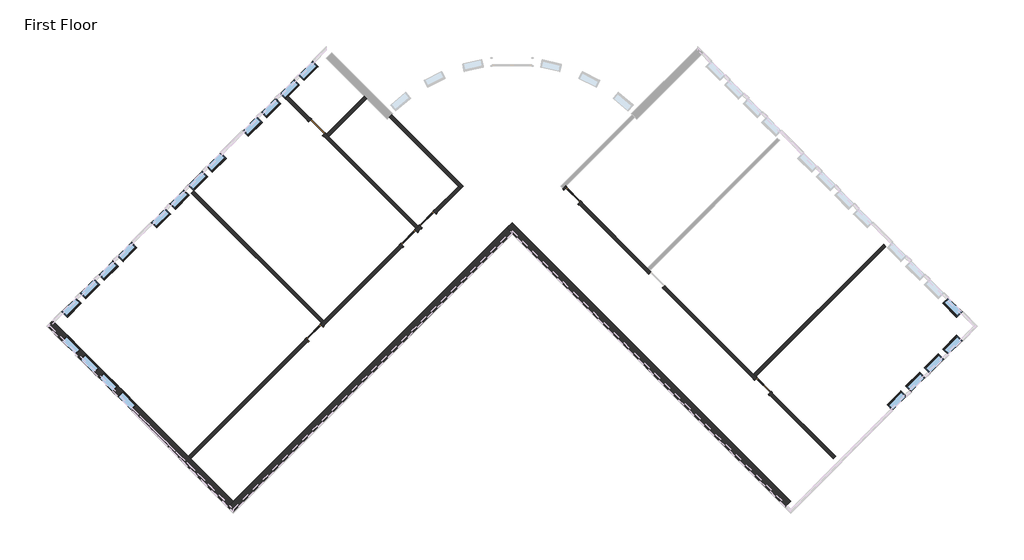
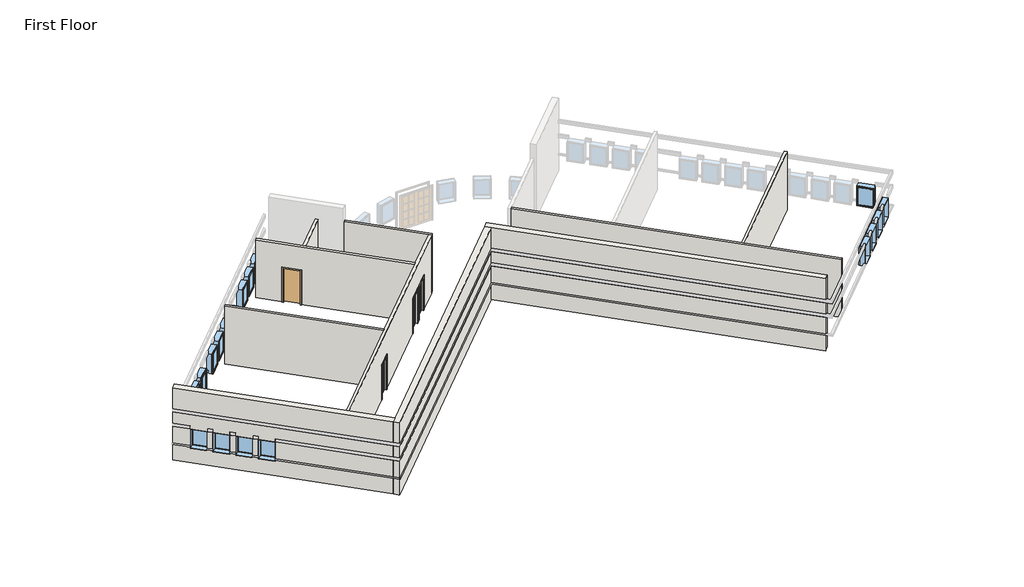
# One storey, part 1 of 3: 21 windows, 10 walls, 6 doors.
"""IFC4 building model written with IfcOpenShell, lengths in millimetres."""

from ifc_helpers import new_model, si_unit, frame, origin, origin_with_axes, place, context, project, spatial, polyline, circle_curve, outline, extrude, faceted_brep, transform, mapped, element, save
from ifc_brep_helpers import plane_surface, cylinder_surface, advanced_brep
from components import door_f9494b7c, door_b81abb0e, door_5f5b55da, window_15c49d37, window_0e2fc6ce

model = new_model("IFC4")

# Units and contexts
model_context = context("Model", 3, world=origin())
ifc_project = project(units=[si_unit("LENGTHUNIT", "METRE", prefix="MILLI")], contexts=[model_context])

# Site, building, storey
site = spatial("IfcSite", under=ifc_project)
building = spatial("IfcBuilding", under=site)
storey = spatial("IfcBuildingStorey", under=building, Name="First Floor", Elevation=0.0)

# Doors
placement = place(None, origin())
door_shape = door_f9494b7c(model_context)
element("IfcDoor", 1, ObjectType="Single-Flush : 36\" x 84\"", at=placement, inside=storey, context=model_context, shape_type="MappedRepresentation", body=[
    mapped(door_shape, transform((-11920.1265343, 7875.9588464, 0.0), x_axis=(0.7071067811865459, -0.7071067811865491, 0.0), y_axis=(0.7071067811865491, 0.7071067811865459, 0.0), z_axis=(0.0, 0.0, 1.0))),
])
door_2_shape = door_b81abb0e(model_context)
element("IfcDoor", 2, ObjectType="Single-Glass 1 : 36\" x 84\"", at=placement, inside=storey, context=model_context, shape_type="MappedRepresentation", body=[
    mapped(door_2_shape, transform((-12027.7718255, -1647.4849877, 0.0), x_axis=(0.7071067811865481, 0.7071067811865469, 0.0), y_axis=(-0.7071067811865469, 0.7071067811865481, 0.0), z_axis=(0.0, 0.0, 1.0))),
])
element("IfcDoor", 3, ObjectType="Single-Glass 1 : 36\" x 84\"", at=placement, inside=storey, context=model_context, shape_type="MappedRepresentation", body=[
    mapped(door_2_shape, transform((-7643.2795567, 2737.0072811, 0.0), x_axis=(0.7071067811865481, 0.7071067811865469, 0.0), y_axis=(-0.7071067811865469, 0.7071067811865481, 0.0), z_axis=(0.0, 0.0, 1.0))),
])
door_3_shape = door_5f5b55da(model_context)
element("IfcDoor", 4, ObjectType="Single-Glass 1 : 36\" x 84\"", at=placement, inside=storey, context=model_context, shape_type="MappedRepresentation", body=[
    mapped(door_3_shape, transform((-6781.1749691, 3599.1118687, 0.0), x_axis=(-0.7071067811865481, -0.7071067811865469, 0.0), y_axis=(0.7071067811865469, -0.7071067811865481, 0.0), z_axis=(0.0, 0.0, 1.0))),
])
element("IfcDoor", 5, ObjectType="Single-Glass 1 : 36\" x 84\"", at=placement, inside=storey, context=model_context, shape_type="MappedRepresentation", body=[
    mapped(door_3_shape, transform((-66.4240191, 4710.6541283, 0.0), x_axis=(-0.7071067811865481, 0.7071067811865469, 0.0), y_axis=(-0.7071067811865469, -0.7071067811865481, 0.0), z_axis=(0.0, 0.0, 1.0))),
])
element("IfcDoor", 6, ObjectType="Single-Glass 1 : 36\" x 84\"", at=placement, inside=storey, context=model_context, shape_type="MappedRepresentation", body=[
    mapped(door_3_shape, transform((8770.3835686, -4126.1534594, 0.0), x_axis=(-0.7071067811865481, 0.7071067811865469, 0.0), y_axis=(-0.7071067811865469, -0.7071067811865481, 0.0), z_axis=(0.0, 0.0, 1.0))),
])

# Walls
element("IfcWall", 7, ObjectType="Exterior - Split Face and CMU on Mtl. Stud", at=placement, inside=storey, context=model_context, shape_type="Brep", body=[
    faceted_brep([(10063.54045, -9480.6311716, 4572.0), (-2868.0283643, 3450.9376427, 4572.0), (-3117.2304717, 3201.7355354, 4572.0), (-2868.0283643, 2952.533428, 4572.0), (9814.3383427, -9729.833279, 4572.0), (10063.54045, -9480.6311716, 0.0), (-2868.0283643, 3450.9376427, 0.0), (-3117.2304717, 3201.7355354, 0.0), (-2868.0283643, 2952.533428, 0.0), (9814.3383427, -9729.833279, 0.0), (9814.3383427, -9729.833279, 1016.0), (-2868.0283643, 2952.533428, 1016.0), (-2933.1352212, 3017.6402849, 1016.0), (-2933.1352212, 3017.6402849, 1085.85), (-2868.0283643, 2952.533428, 1085.85), (9814.3383427, -9729.833279, 1085.85), (9814.3383427, -9729.833279, 2133.6), (-2868.0283643, 2952.533428, 2133.6), (-2933.1352212, 3017.6402849, 2133.6), (-2933.1352212, 3017.6402849, 2336.8), (-2868.0283643, 2952.533428, 2336.8), (9814.3383427, -9729.833279, 2336.8), (9814.3383427, -9729.833279, 3048.0), (-2868.0283643, 2952.533428, 3048.0), (-2933.1352212, 3017.6402849, 3048.0), (-2933.1352212, 3017.6402849, 3251.2), (-2868.0283643, 2952.533428, 3251.2), (9814.3383427, -9729.833279, 3251.2), (9879.4451996, -9664.7264221, 0.0), (-3052.1236148, 3266.8423923, 0.0), (9879.4451996, -9664.7264221, 3251.2), (9879.4451996, -9664.7264221, 3048.0), (9879.4451996, -9664.7264221, 2336.8), (9879.4451996, -9664.7264221, 2133.6), (9879.4451996, -9664.7264221, 1085.85), (9879.4451996, -9664.7264221, 1016.0), (-2868.0283643, 3082.7471418, 1085.85), (-2868.0283643, 3082.7471418, 1016.0), (-2868.0283643, 3082.7471418, 2133.6), (-2868.0283643, 3082.7471418, 2336.8), (-2868.0283643, 3082.7471418, 3048.0), (-2868.0283643, 3082.7471418, 3251.2)], [[[0, 1, 2, 3, 4]], [[5, 6, 1, 0]], [[4, 3, 2, 7, 8, 9, 10, 11, 12, 13, 14, 15, 16, 17, 18, 19, 20, 21, 22, 23, 24, 25, 26, 27]], [[6, 5, 28, 29]], [[5, 0, 4, 27, 30, 31, 22, 21, 32, 33, 16, 15, 34, 35, 10, 9, 28]], [[9, 8, 7, 29, 28]], [[1, 6, 29, 7, 2]], [[13, 36, 34, 15, 14]], [[35, 37, 12, 11, 10]], [[36, 37, 35, 34]], [[37, 36, 13, 12]], [[33, 38, 18, 17, 16]], [[19, 39, 32, 21, 20]], [[39, 38, 33, 32]], [[38, 39, 19, 18]], [[31, 40, 24, 23, 22]], [[25, 41, 30, 27, 26]], [[41, 40, 31, 30]], [[40, 41, 25, 24]]]),
])
element("IfcWall", 8, ObjectType="Exterior - Split Face and CMU on Mtl. Stud", at=placement, inside=storey, context=model_context, shape_type="Brep", body=[
    faceted_brep([(-3117.2304717, 3201.7355354, 4572.0), (-15799.5971786, -9480.6311716, 4572.0), (-16048.799286, -9729.833279, 4572.0), (-15799.5971786, -9979.0353863, 4572.0), (-2868.0283643, 2952.533428, 4572.0), (-3117.2304717, 3201.7355354, 0.0), (-15799.5971786, -9480.6311716, 0.0), (-16048.799286, -9729.833279, 0.0), (-16048.799286, -9729.833279, 1016.0), (-15983.6924291, -9664.7264221, 1016.0), (-15983.6924291, -9664.7264221, 1085.85), (-16048.799286, -9729.833279, 1085.85), (-16048.799286, -9729.833279, 2133.6), (-15983.6924291, -9664.7264221, 2133.6), (-15983.6924291, -9664.7264221, 2336.8), (-16048.799286, -9729.833279, 2336.8), (-16048.799286, -9729.833279, 3048.0), (-15983.6924291, -9664.7264221, 3048.0), (-15983.6924291, -9664.7264221, 3251.2), (-16048.799286, -9729.833279, 3251.2), (-15799.5971786, -9979.0353863, 3251.2), (-2868.0283643, 2952.533428, 3251.2), (-15799.5971786, -9979.0353863, 0.0), (-2868.0283643, 2952.533428, 0.0), (-2868.0283643, 2952.533428, 1016.0), (-15799.5971786, -9979.0353863, 1016.0), (-15799.5971786, -9979.0353863, 1085.85), (-2868.0283643, 2952.533428, 1085.85), (-2868.0283643, 2952.533428, 2133.6), (-15799.5971786, -9979.0353863, 2133.6), (-15799.5971786, -9979.0353863, 2336.8), (-2868.0283643, 2952.533428, 2336.8), (-2868.0283643, 2952.533428, 3048.0), (-15799.5971786, -9979.0353863, 3048.0), (-2933.1352212, 3017.6402849, 0.0), (-15864.7040355, -9913.9285294, 0.0), (-2933.1352212, 3017.6402849, 3251.2), (-2933.1352212, 3017.6402849, 3048.0), (-2933.1352212, 3017.6402849, 2336.8), (-2933.1352212, 3017.6402849, 2133.6), (-2933.1352212, 3017.6402849, 1085.85), (-2933.1352212, 3017.6402849, 1016.0), (-15799.5971786, -9848.8216726, 1085.85), (-15799.5971786, -9848.8216726, 1016.0), (-15799.5971786, -9848.8216726, 2133.6), (-15799.5971786, -9848.8216726, 2336.8), (-15799.5971786, -9848.8216726, 3048.0), (-15799.5971786, -9848.8216726, 3251.2)], [[[0, 1, 2, 3, 4]], [[5, 6, 7, 8, 9, 10, 11, 12, 13, 14, 15, 16, 17, 18, 19, 2, 1, 0]], [[4, 3, 20, 21]], [[22, 23, 24, 25]], [[26, 27, 28, 29]], [[30, 31, 32, 33]], [[7, 6, 5, 34, 35]], [[5, 0, 4, 21, 36, 37, 32, 31, 38, 39, 28, 27, 40, 41, 24, 23, 34]], [[23, 22, 35, 34]], [[3, 2, 19, 20]], [[7, 35, 22, 25, 8]], [[11, 26, 29, 12]], [[15, 30, 33, 16]], [[10, 42, 40, 27, 26, 11]], [[41, 43, 9, 8, 25, 24]], [[42, 43, 41, 40]], [[43, 42, 10, 9]], [[39, 44, 13, 12, 29, 28]], [[14, 45, 38, 31, 30, 15]], [[45, 44, 39, 38]], [[44, 45, 14, 13]], [[37, 46, 17, 16, 33, 32]], [[18, 47, 36, 21, 20, 19]], [[47, 46, 37, 36]], [[46, 47, 18, 17]]]),
])
element("IfcWall", 9, ObjectType="Exterior - Split Face and CMU on Mtl. Stud", at=placement, inside=storey, context=model_context, shape_type="Brep", body=[
    faceted_brep([(-15799.5971786, -9480.6311716, 4572.0), (-23922.2388402, -1357.9895101, 4572.0), (-24171.4409475, -1108.7874027, 4572.0), (-24420.6430549, -1357.9895101, 4572.0), (-16048.799286, -9729.833279, 4572.0), (-15799.5971786, -9480.6311716, 0.0), (-17775.2535253, -7504.974825, 0.0), (-17885.2616628, -7394.9666875, 0.0), (-23922.2388402, -1357.9895101, 0.0), (-24171.4409475, -1108.7874027, 0.0), (-24171.4409475, -1108.7874027, 1016.0), (-24106.3340906, -1173.8942596, 1016.0), (-24106.3340906, -1173.8942596, 1085.85), (-24171.4409475, -1108.7874027, 1085.85), (-24171.4409475, -1108.7874027, 2133.6), (-24106.3340906, -1173.8942596, 2133.6), (-24106.3340906, -1173.8942596, 2336.8), (-24171.4409475, -1108.7874027, 2336.8), (-24171.4409475, -1108.7874027, 3048.0), (-24106.3340906, -1173.8942596, 3048.0), (-24106.3340906, -1173.8942596, 3251.2), (-24171.4409475, -1108.7874027, 3251.2), (-20921.7107637, -4358.5175865, 2133.6), (-20921.7107637, -4358.5175865, 914.4), (-20275.132323, -5005.0960273, 914.4), (-20275.132323, -5005.0960273, 2133.6), (-21783.8153513, -3496.4129989, 2133.6), (-21783.8153513, -3496.4129989, 914.4), (-21137.2369106, -4142.9914396, 914.4), (-21137.2369106, -4142.9914396, 2133.6), (-22645.9199389, -2634.3084113, 2133.6), (-22645.9199389, -2634.3084113, 914.4), (-21999.3414982, -3280.886852, 914.4), (-21999.3414982, -3280.886852, 2133.6), (-23508.0245266, -1772.2038237, 2133.6), (-23508.0245266, -1772.2038237, 914.4), (-22861.4460859, -2418.7822644, 914.4), (-22861.4460859, -2418.7822644, 2133.6), (-24420.6430549, -1357.9895101, 3251.2), (-16048.799286, -9729.833279, 3251.2), (-24420.6430549, -1357.9895101, 0.0), (-16048.799286, -9729.833279, 0.0), (-16048.799286, -9729.833279, 1016.0), (-20524.3344303, -5254.2981346, 1016.0), (-20524.3344303, -5254.2981346, 914.4), (-21170.9128711, -4607.7196939, 914.4), (-21170.9128711, -4607.7196939, 1016.0), (-21386.439018, -4392.193547, 1016.0), (-21386.439018, -4392.193547, 914.4), (-22033.0174587, -3745.6151063, 914.4), (-22033.0174587, -3745.6151063, 1016.0), (-22248.5436056, -3530.0889594, 1016.0), (-22248.5436056, -3530.0889594, 914.4), (-22895.1220463, -2883.5105187, 914.4), (-22895.1220463, -2883.5105187, 1016.0), (-23110.6481932, -2667.9843718, 1016.0), (-23110.6481932, -2667.9843718, 914.4), (-23757.2266339, -2021.405931, 914.4), (-23757.2266339, -2021.405931, 1016.0), (-24420.6430549, -1357.9895101, 1016.0), (-21170.9128711, -4607.7196939, 2133.6), (-20524.3344303, -5254.2981346, 2133.6), (-20524.3344303, -5254.2981346, 2336.8), (-16048.799286, -9729.833279, 2336.8), (-16048.799286, -9729.833279, 3048.0), (-24420.6430549, -1357.9895101, 3048.0), (-24420.6430549, -1357.9895101, 2336.8), (-23757.2266339, -2021.405931, 2336.8), (-23757.2266339, -2021.405931, 2133.6), (-23110.6481932, -2667.9843718, 2133.6), (-23110.6481932, -2667.9843718, 2336.8), (-22895.1220463, -2883.5105187, 2336.8), (-22895.1220463, -2883.5105187, 2133.6), (-22248.5436056, -3530.0889594, 2133.6), (-22248.5436056, -3530.0889594, 2336.8), (-22033.0174587, -3745.6151063, 2336.8), (-22033.0174587, -3745.6151063, 2133.6), (-21386.439018, -4392.193547, 2133.6), (-21386.439018, -4392.193547, 2336.8), (-21170.9128711, -4607.7196939, 2336.8), (-20524.3344303, -5254.2981346, 1085.85), (-16048.799286, -9729.833279, 1085.85), (-16048.799286, -9729.833279, 2133.6), (-21170.9128711, -4607.7196939, 1085.85), (-21386.439018, -4392.193547, 1085.85), (-22033.0174587, -3745.6151063, 1085.85), (-22248.5436056, -3530.0889594, 1085.85), (-22895.1220463, -2883.5105187, 1085.85), (-23110.6481932, -2667.9843718, 1085.85), (-23757.2266339, -2021.405931, 1085.85), (-24420.6430549, -1357.9895101, 2133.6), (-24420.6430549, -1357.9895101, 1085.85), (-15983.6924291, -9664.7264221, 0.0), (-24355.536198, -1292.8826532, 0.0), (-15983.6924291, -9664.7264221, 3251.2), (-15983.6924291, -9664.7264221, 3048.0), (-15983.6924291, -9664.7264221, 2336.8), (-15983.6924291, -9664.7264221, 2133.6), (-15983.6924291, -9664.7264221, 1085.85), (-15983.6924291, -9664.7264221, 1016.0), (-21105.8060142, -4542.612837, 2133.6), (-21105.8060142, -4542.612837, 1085.85), (-21105.8060142, -4542.612837, 1016.0), (-20459.2275735, -5189.1912777, 1016.0), (-20459.2275735, -5189.1912777, 1085.85), (-20459.2275735, -5189.1912777, 2133.6), (-21967.9106018, -3680.5082494, 2133.6), (-21967.9106018, -3680.5082494, 1085.85), (-21967.9106018, -3680.5082494, 1016.0), (-21321.3321611, -4327.0866901, 1016.0), (-21321.3321611, -4327.0866901, 1085.85), (-21321.3321611, -4327.0866901, 2133.6), (-22830.0151894, -2818.4036618, 2133.6), (-22830.0151894, -2818.4036618, 1085.85), (-22830.0151894, -2818.4036618, 1016.0), (-22183.4367487, -3464.9821025, 1016.0), (-22183.4367487, -3464.9821025, 1085.85), (-22183.4367487, -3464.9821025, 2133.6), (-23692.119777, -1956.2990742, 2133.6), (-23692.119777, -1956.2990742, 1085.85), (-23692.119777, -1956.2990742, 1016.0), (-23045.5413363, -2602.8775149, 1016.0), (-23045.5413363, -2602.8775149, 1085.85), (-23045.5413363, -2602.8775149, 2133.6), (-24290.4293411, -1357.9895101, 1085.85), (-24290.4293411, -1357.9895101, 1016.0), (-20459.2275735, -5189.1912777, 2133.6), (-20459.2275735, -5189.1912777, 2336.8), (-21105.8060142, -4542.612837, 2133.6), (-21105.8060142, -4542.612837, 2336.8), (-21321.3321611, -4327.0866901, 2336.8), (-21321.3321611, -4327.0866901, 2133.6), (-21967.9106018, -3680.5082494, 2133.6), (-21967.9106018, -3680.5082494, 2336.8), (-22183.4367487, -3464.9821025, 2336.8), (-22183.4367487, -3464.9821025, 2133.6), (-22830.0151894, -2818.4036618, 2133.6), (-22830.0151894, -2818.4036618, 2336.8), (-23045.5413363, -2602.8775149, 2336.8), (-23045.5413363, -2602.8775149, 2133.6), (-23692.119777, -1956.2990742, 2133.6), (-23692.119777, -1956.2990742, 2336.8), (-24290.4293411, -1357.9895101, 2133.6), (-24290.4293411, -1357.9895101, 2336.8), (-24290.4293411, -1357.9895101, 3048.0), (-24290.4293411, -1357.9895101, 3251.2)], [[[0, 1, 2, 3, 4]], [[5, 6, 7, 8, 9, 10, 11, 12, 13, 14, 15, 16, 17, 18, 19, 20, 21, 2, 1, 0], [22, 23, 24, 25], [26, 27, 28, 29], [30, 31, 32, 33], [34, 35, 36, 37]], [[4, 3, 38, 39]], [[40, 41, 42, 43, 44, 45, 46, 47, 48, 49, 50, 51, 52, 53, 54, 55, 56, 57, 58, 59]], [[60, 61, 62, 63, 64, 65, 66, 67, 68, 69, 70, 71, 72, 73, 74, 75, 76, 77, 78, 79]], [[61, 80, 81, 82]], [[83, 60, 77, 84]], [[85, 76, 73, 86]], [[87, 72, 69, 88]], [[89, 68, 90, 91]], [[9, 8, 7, 6, 5, 92, 93]], [[5, 0, 4, 39, 94, 95, 64, 63, 96, 97, 82, 81, 98, 99, 42, 41, 92]], [[41, 40, 93, 92]], [[3, 2, 21, 38]], [[9, 93, 40, 59, 10]], [[13, 91, 90, 14]], [[17, 66, 65, 18]], [[23, 22, 100, 60, 83, 101, 102, 46, 45]], [[24, 23, 45, 44]], [[25, 24, 44, 43, 103, 104, 80, 61, 105]], [[22, 25, 105, 61, 60, 100]], [[27, 26, 106, 76, 85, 107, 108, 50, 49]], [[28, 27, 49, 48]], [[29, 28, 48, 47, 109, 110, 84, 77, 111]], [[26, 29, 111, 77, 76, 106]], [[31, 30, 112, 72, 87, 113, 114, 54, 53]], [[32, 31, 53, 52]], [[33, 32, 52, 51, 115, 116, 86, 73, 117]], [[30, 33, 117, 73, 72, 112]], [[35, 34, 118, 68, 89, 119, 120, 58, 57]], [[36, 35, 57, 56]], [[37, 36, 56, 55, 121, 122, 88, 69, 123]], [[34, 37, 123, 69, 68, 118]], [[104, 98, 81, 80]], [[99, 103, 43, 42]], [[98, 104, 103, 99]], [[110, 101, 83, 84]], [[102, 109, 47, 46]], [[101, 110, 109, 102]], [[116, 107, 85, 86]], [[108, 115, 51, 50]], [[107, 116, 115, 108]], [[122, 113, 87, 88]], [[114, 121, 55, 54]], [[113, 122, 121, 114]], [[124, 119, 89, 91, 13, 12]], [[120, 125, 11, 10, 59, 58]], [[119, 124, 125, 120]], [[125, 124, 12, 11]], [[126, 61, 82, 97]], [[62, 127, 96, 63]], [[61, 126, 127, 62]], [[127, 126, 97, 96]], [[128, 60, 79, 129]], [[130, 78, 77, 131]], [[60, 128, 131, 77]], [[128, 129, 130, 131]], [[129, 79, 78, 130]], [[132, 76, 75, 133]], [[134, 74, 73, 135]], [[76, 132, 135, 73]], [[132, 133, 134, 135]], [[133, 75, 74, 134]], [[136, 72, 71, 137]], [[138, 70, 69, 139]], [[72, 136, 139, 69]], [[136, 137, 138, 139]], [[137, 71, 70, 138]], [[140, 68, 67, 141]], [[68, 140, 142, 15, 14, 90]], [[140, 141, 143, 142]], [[141, 67, 66, 17, 16, 143]], [[142, 143, 16, 15]], [[95, 144, 19, 18, 65, 64]], [[20, 145, 94, 39, 38, 21]], [[145, 144, 95, 94]], [[144, 145, 20, 19]]]),
])
element("IfcWall", 10, ObjectType="Interior - 6 1/8\" Partition (2-hr)", at=placement, inside=storey, context=model_context, shape_type="Brep", body=[
    faceted_brep([(-7374.9944051, 3115.3005702, 0.0), (-7322.2354004, 3168.0595749, 0.0), (-7212.2272629, 3278.0677124, 0.0), (-7159.4682582, 3330.8267171, 0.0), (-7049.4601207, 3220.8185796, 0.0), (-7264.9862676, 3005.2924327, 0.0), (-12296.0569771, -2025.7782768, 0.0), (-17775.2535253, -7504.974825, 0.0), (-17885.2616628, -7394.9666875, 0.0), (-12406.0651146, -1915.7701393, 0.0), (-7911.5647083, 2358.713992, 0.0), (-11649.4785364, -1379.1998361, 0.0), (-11759.4866739, -1269.1916986, 0.0), (-11706.7276692, -1216.4326939, 0.0), (-11596.7195317, -1106.4245564, 0.0), (-8021.5728458, 2468.7221295, 0.0), (-6512.8898174, 3977.4051578, 0.0), (-5348.5885532, 5141.7064221, 0.0), (-5238.5804157, 5031.6982846, 0.0), (-6402.88168, 3867.3970204, 0.0), (-17775.2535253, -7504.974825, 3657.6), (-5238.5804157, 5031.6982846, 3657.6), (-5348.5885532, 5141.7064221, 3657.6), (-7212.2272629, 3278.0677124, 3657.6), (-7322.2354004, 3168.0595749, 3657.6), (-11596.7195317, -1106.4245564, 3657.6), (-11706.7276692, -1216.4326939, 3657.6), (-17885.2616628, -7394.9666875, 3657.6), (-7049.4601207, 3220.8185796, 2133.6), (-6402.88168, 3867.3970204, 2133.6), (-12296.0569771, -2025.7782768, 2133.6), (-11649.4785364, -1379.1998361, 2133.6), (-7911.5647083, 2358.713992, 2133.6), (-7264.9862676, 3005.2924327, 2133.6), (-7159.4682582, 3330.8267171, 2133.6), (-7374.9944051, 3115.3005702, 2133.6), (-8021.5728458, 2468.7221295, 2133.6), (-11759.4866739, -1269.1916986, 2133.6), (-12406.0651146, -1915.7701393, 2133.6), (-6512.8898174, 3977.4051578, 2133.6)], [[[0, 1, 2, 3, 4, 5]], [[6, 7, 8, 9]], [[10, 11, 12, 13, 14, 15]], [[16, 17, 18, 19]], [[20, 21, 22, 23, 24, 25, 26, 27]], [[5, 4, 28, 29, 19, 18, 21, 20, 7, 6, 30, 31, 11, 10, 32, 33]], [[34, 3, 2, 1, 0, 35, 36, 15, 14, 13, 12, 37, 38, 9, 8, 27, 26, 25, 24, 23, 22, 17, 16, 39]], [[7, 20, 27, 8]], [[21, 18, 17, 22]], [[37, 12, 11, 31]], [[38, 37, 31, 30]], [[9, 38, 30, 6]], [[35, 0, 5, 33]], [[36, 35, 33, 32]], [[15, 36, 32, 10]], [[28, 4, 3, 34]], [[29, 28, 34, 39]], [[19, 29, 39, 16]]]),
])
element("IfcWall", 11, ObjectType="Interior - 6 1/8\" Partition (2-hr)", at=placement, inside=storey, context=model_context, shape_type="Brep", body=[
    faceted_brep([(-7322.2354004, 3168.0595749, 0.0), (-11651.8413827, 7497.6655573, 0.0), (-11541.8332452, 7607.6736948, 0.0), (-11489.0742405, 7554.9146901, 0.0), (-11379.066103, 7444.9065526, 0.0), (-7212.2272629, 3278.0677124, 0.0), (-12298.4198234, 8144.243998, 0.0), (-13359.2125777, 9205.0367523, 0.0), (-13249.2044403, 9315.0448898, 0.0), (-12188.411686, 8254.2521355, 0.0), (-7212.2272629, 3278.0677124, 3657.6), (-11379.066103, 7444.9065526, 3657.6), (-11489.0742405, 7554.9146901, 3657.6), (-13249.2044403, 9315.0448898, 3657.6), (-13359.2125777, 9205.0367523, 3657.6), (-7322.2354004, 3168.0595749, 3657.6), (-11541.8332452, 7607.6736948, 2133.6), (-12188.411686, 8254.2521355, 2133.6), (-11651.8413827, 7497.6655573, 2133.6), (-12298.4198234, 8144.243998, 2133.6)], [[[0, 1, 2, 3, 4, 5]], [[6, 7, 8, 9]], [[10, 11, 12, 13, 14, 15]], [[5, 4, 3, 2, 16, 17, 9, 8, 13, 12, 11, 10]], [[18, 1, 0, 15, 14, 7, 6, 19]], [[13, 8, 7, 14]], [[5, 10, 15, 0]], [[16, 2, 1, 18]], [[17, 16, 18, 19]], [[9, 17, 19, 6]]]),
])
element("IfcWall", 12, ObjectType="Interior - 6 1/8\" Partition (2-hr)", at=placement, inside=storey, context=model_context, shape_type="AdvancedBrep", body=[
    advanced_brep(
    [(-5128.5722782, 5141.7064221, 0.0), (-8449.0111375, 8462.1452813, 0.0), (-8449.0111375, 8462.1452813, 3657.6), (-5128.5722782, 5141.7064221, 3657.6), (-5238.5804157, 5031.6982846, 0.0), (-5238.5804157, 5031.6982846, 3657.6), (-5348.5885532, 5141.7064221, 3657.6), (-8557.7157352, 8350.8336041, 3657.6), (-8557.7157352, 8350.8336041, 0.0), (-5348.5885532, 5141.7064221, 0.0)],
    [
        (0, 1),
        (1, 2),
        (2, 3),
        (3, 0),
        (4, 5),
        (5, 6),
        (6, 7),
        (7, 8),
        (8, 9),
        (9, 4),
        (0, 4),
        (8, 1, circle_curve(frame((-2868.0283643, 2903.1420194, 0.0), z_axis=(0.0, 0.0, -1.0), x_axis=(1.0, 0.0, 0.0)), 7877.175)),
        (2, 7, circle_curve(frame((-2868.0283643, 2903.1420194, 3657.6), z_axis=(0.0, 0.0, 1.0), x_axis=(1.0, 0.0, 0.0)), 7877.175)),
        (5, 3),
    ],
    [
        plane_surface(frame((-5183.576347, 5196.7104908, 0.0), z_axis=(0.7071067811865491, 0.7071067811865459, 0.0), x_axis=(-0.7071067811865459, 0.7071067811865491, 0.0))),
        plane_surface(frame((-5293.5844845, 5086.7023533, 0.0), z_axis=(-0.7071067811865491, -0.7071067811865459, 0.0), x_axis=(0.7071067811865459, -0.7071067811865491, 0.0))),
        plane_surface(frame((-5183.576347, 5196.7104908, 0.0), z_axis=(0.0, 0.0, -1.0), x_axis=(-0.707106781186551, -0.7071067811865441, 0.0))),
        plane_surface(frame((-8573.2406241, 8586.374768, 3657.6), z_axis=(0.0, 0.0, 1.0), x_axis=(-0.707106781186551, -0.7071067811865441, 0.0))),
        plane_surface(frame((-17899.854579, -7629.5758786, 0.0), z_axis=(0.7071067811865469, -0.7071067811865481, 0.0), x_axis=(0.7071067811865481, 0.7071067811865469, 0.0))),
        cylinder_surface(frame((-2868.0283643, 2903.1420194, 0.0), z_axis=(0.0, 0.0, -1.0), x_axis=(1.0, 0.0, 0.0)), 7877.175),
    ],
    [
        (0, [[1, 2, 3, 4]]),
        (1, [[5, 6, 7, 8, 9, 10]]),
        (2, [[-1, 11, -10, -9, 12]]),
        (3, [[-3, 13, -7, -6, 14]]),
        (4, [[-4, -14, -5, -11]]),
        (5, [[-2, -12, -8, -13]]),
    ],
),
])
element("IfcWall", 13, ObjectType="Interior - 6 1/8\" Partition (2-hr)", at=placement, inside=storey, context=model_context, shape_type="SweptSolid", body=[
    extrude(outline(polyline([(-11489.0742405, 7554.9146901), (-9728.9440408, 9315.0448898), (-9618.9359033, 9205.0367523), (-11379.066103, 7444.9065526), (-11489.0742405, 7554.9146901)])), origin_with_axes(), (0.0, 0.0, 1.0), 3657.6),
])
element("IfcWall", 14, ObjectType="Interior - 6 1/8\" Partition (2-hr)", at=placement, inside=storey, context=model_context, shape_type="SweptSolid", body=[
    extrude(outline(polyline([(-17633.6967091, 4930.552621), (-11596.7195317, -1106.4245564), (-11706.7276692, -1216.4326939), (-17743.7048466, 4820.5444835), (-17633.6967091, 4930.552621)])), origin_with_axes(), (0.0, 0.0, 1.0), 3657.6),
])
element("IfcWall", 15, ObjectType="Interior - 6 1/8\" Partition (2-hr)", at=placement, inside=storey, context=model_context, shape_type="Brep", body=[
    faceted_brep([(-387.4681754, 5141.7064221, 0.0), (-334.7091707, 5088.9474174, 0.0), (-444.7173082, 4978.9392799, 0.0), (-497.4763129, 5031.6982846, 0.0), (311.86927, 4442.3689766, 0.0), (3415.9058564, 1338.3323903, 0.0), (3525.9139939, 1228.3242528, 0.0), (3578.6729986, 1175.5652481, 0.0), (3468.6648611, 1065.5571106, 0.0), (201.8611325, 4332.3608392, 0.0), (4225.2514393, 528.9868073, 0.0), (8339.3312748, -3585.0930281, 0.0), (8449.3394123, -3695.1011656, 0.0), (8502.098417, -3747.8601703, 0.0), (8392.0902795, -3857.8683078, 0.0), (4115.2433018, 418.9786699, 0.0), (9148.6768577, -4394.438611, 0.0), (12149.2049342, -7394.9666875, 0.0), (12039.1967967, -7504.974825, 0.0), (9038.6687202, -4504.4467485, 0.0), (12149.2049342, -7394.9666875, 3657.6), (8449.3394123, -3695.1011656, 3657.6), (8339.3312748, -3585.0930281, 3657.6), (3525.9139939, 1228.3242528, 3657.6), (3415.9058564, 1338.3323903, 3657.6), (-387.4681754, 5141.7064221, 3657.6), (-497.4763129, 5031.6982846, 3657.6), (12039.1967967, -7504.974825, 3657.6), (8502.098417, -3747.8601703, 2133.6), (4225.2514393, 528.9868073, 2133.6), (3578.6729986, 1175.5652481, 2133.6), (311.86927, 4442.3689766, 2133.6), (-334.7091707, 5088.9474174, 2133.6), (9148.6768577, -4394.438611, 2133.6), (8392.0902795, -3857.8683078, 2133.6), (9038.6687202, -4504.4467485, 2133.6), (-444.7173082, 4978.9392799, 2133.6), (201.8611325, 4332.3608392, 2133.6), (3468.6648611, 1065.5571106, 2133.6), (4115.2433018, 418.9786699, 2133.6)], [[[0, 1, 2, 3]], [[4, 5, 6, 7, 8, 9]], [[10, 11, 12, 13, 14, 15]], [[16, 17, 18, 19]], [[20, 21, 22, 23, 24, 25, 26, 27]], [[28, 13, 12, 11, 10, 29, 30, 7, 6, 5, 4, 31, 32, 1, 0, 25, 24, 23, 22, 21, 20, 17, 16, 33]], [[15, 14, 34, 35, 19, 18, 27, 26, 3, 2, 36, 37, 9, 8, 38, 39]], [[25, 0, 3, 26]], [[17, 20, 27, 18]], [[36, 2, 1, 32]], [[37, 36, 32, 31]], [[9, 37, 31, 4]], [[38, 8, 7, 30]], [[39, 38, 30, 29]], [[15, 39, 29, 10]], [[34, 14, 13, 28]], [[35, 34, 28, 33]], [[19, 35, 33, 16]]]),
])
element("IfcWall", 16, ObjectType="Interior - 6 1/8\" Partition (2-hr)", at=placement, inside=storey, context=model_context, shape_type="SweptSolid", body=[
    extrude(outline(polyline([(8339.3312748, -3585.0930281), (14376.3084522, 2451.8841493), (14486.3165897, 2341.8760118), (8449.3394123, -3695.1011656), (8339.3312748, -3585.0930281)])), origin_with_axes(), (0.0, 0.0, 1.0), 3657.6),
])

# Windows
window_shape = window_15c49d37(model_context)
element("IfcWindow", 17, ObjectType="Fixed : 36\" x 48\"", at=placement, inside=storey, context=model_context, shape_type="MappedRepresentation", body=[
    mapped(window_shape, transform((-23336.2771283, -522.8256908, 0.0), x_axis=(-0.7071067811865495, -0.7071067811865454, 0.0), y_axis=(0.7071067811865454, -0.7071067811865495, 0.0), z_axis=(0.0, 0.0, 1.0))),
])
element("IfcWindow", 18, ObjectType="Fixed : 36\" x 48\"", at=placement, inside=storey, context=model_context, shape_type="MappedRepresentation", body=[
    mapped(window_shape, transform((-22474.1725406, 339.2788968, 0.0), x_axis=(-0.7071067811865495, -0.7071067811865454, 0.0), y_axis=(0.7071067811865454, -0.7071067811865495, 0.0), z_axis=(0.0, 0.0, 1.0))),
])
element("IfcWindow", 19, ObjectType="Fixed : 36\" x 48\"", at=placement, inside=storey, context=model_context, shape_type="MappedRepresentation", body=[
    mapped(window_shape, transform((-21612.067953, 1201.3834844, 0.0), x_axis=(-0.7071067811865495, -0.7071067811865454, 0.0), y_axis=(0.7071067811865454, -0.7071067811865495, 0.0), z_axis=(0.0, 0.0, 1.0))),
])
element("IfcWindow", 20, ObjectType="Fixed : 36\" x 48\"", at=placement, inside=storey, context=model_context, shape_type="MappedRepresentation", body=[
    mapped(window_shape, transform((-20749.9633654, 2063.488072, 0.0), x_axis=(-0.7071067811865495, -0.7071067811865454, 0.0), y_axis=(0.7071067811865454, -0.7071067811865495, 0.0), z_axis=(0.0, 0.0, 1.0))),
])
element("IfcWindow", 21, ObjectType="Fixed : 36\" x 48\"", at=placement, inside=storey, context=model_context, shape_type="MappedRepresentation", body=[
    mapped(window_shape, transform((-19187.8702245, 3625.5812129, 0.0), x_axis=(-0.7071067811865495, -0.7071067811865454, 0.0), y_axis=(0.7071067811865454, -0.7071067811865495, 0.0), z_axis=(0.0, 0.0, 1.0))),
])
element("IfcWindow", 22, ObjectType="Fixed : 36\" x 48\"", at=placement, inside=storey, context=model_context, shape_type="MappedRepresentation", body=[
    mapped(window_shape, transform((-18325.7656368, 4487.6858006, 0.0), x_axis=(-0.7071067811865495, -0.7071067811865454, 0.0), y_axis=(0.7071067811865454, -0.7071067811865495, 0.0), z_axis=(0.0, 0.0, 1.0))),
])
element("IfcWindow", 23, ObjectType="Fixed : 36\" x 48\"", at=placement, inside=storey, context=model_context, shape_type="MappedRepresentation", body=[
    mapped(window_shape, transform((-17463.6610492, 5349.7903882, 0.0), x_axis=(-0.7071067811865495, -0.7071067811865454, 0.0), y_axis=(0.7071067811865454, -0.7071067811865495, 0.0), z_axis=(0.0, 0.0, 1.0))),
])
element("IfcWindow", 24, ObjectType="Fixed : 36\" x 48\"", at=placement, inside=storey, context=model_context, shape_type="MappedRepresentation", body=[
    mapped(window_shape, transform((-16601.5564616, 6211.8949758, 0.0), x_axis=(-0.7071067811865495, -0.7071067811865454, 0.0), y_axis=(0.7071067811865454, -0.7071067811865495, 0.0), z_axis=(0.0, 0.0, 1.0))),
])
element("IfcWindow", 25, ObjectType="Fixed : 36\" x 48\"", at=placement, inside=storey, context=model_context, shape_type="MappedRepresentation", body=[
    mapped(window_shape, transform((17600.2203996, -2193.1533294, 0.0), x_axis=(0.7071067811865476, 0.7071067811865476, 0.0), y_axis=(-0.7071067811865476, 0.7071067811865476, 0.0), z_axis=(0.0, 0.0, 1.0))),
])
element("IfcWindow", 26, ObjectType="Fixed : 36\" x 48\"", at=placement, inside=storey, context=model_context, shape_type="MappedRepresentation", body=[
    mapped(window_shape, transform((16738.115812, -3055.257917, 0.0), x_axis=(0.7071067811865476, 0.7071067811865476, 0.0), y_axis=(-0.7071067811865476, 0.7071067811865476, 0.0), z_axis=(0.0, 0.0, 1.0))),
])
element("IfcWindow", 27, ObjectType="Fixed : 36\" x 48\"", at=placement, inside=storey, context=model_context, shape_type="MappedRepresentation", body=[
    mapped(window_shape, transform((15876.0112244, -3917.3625046, 0.0), x_axis=(0.7071067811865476, 0.7071067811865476, 0.0), y_axis=(-0.7071067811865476, 0.7071067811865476, 0.0), z_axis=(0.0, 0.0, 1.0))),
])
element("IfcWindow", 28, ObjectType="Fixed : 36\" x 48\"", at=placement, inside=storey, context=model_context, shape_type="MappedRepresentation", body=[
    mapped(window_shape, transform((15013.9066368, -4779.4670922, 0.0), x_axis=(0.7071067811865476, 0.7071067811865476, 0.0), y_axis=(-0.7071067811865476, 0.7071067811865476, 0.0), z_axis=(0.0, 0.0, 1.0))),
])
window_2_shape = window_0e2fc6ce(model_context)
element("IfcWindow", 29, ObjectType="Fixed : 36\" x 48\"", at=placement, inside=storey, context=model_context, shape_type="MappedRepresentation", body=[
    mapped(window_2_shape, transform((-12290.3265348, 10523.1249026, 0.0), x_axis=(0.7071067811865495, 0.7071067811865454, 0.0), y_axis=(-0.7071067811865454, 0.7071067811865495, 0.0), z_axis=(0.0, 0.0, 1.0))),
])
element("IfcWindow", 30, ObjectType="Fixed : 36\" x 48\"", at=placement, inside=storey, context=model_context, shape_type="MappedRepresentation", body=[
    mapped(window_2_shape, transform((-13152.4311224, 9661.020315, 0.0), x_axis=(0.7071067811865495, 0.7071067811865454, 0.0), y_axis=(-0.7071067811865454, 0.7071067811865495, 0.0), z_axis=(0.0, 0.0, 1.0))),
])
element("IfcWindow", 31, ObjectType="Fixed : 36\" x 48\"", at=placement, inside=storey, context=model_context, shape_type="MappedRepresentation", body=[
    mapped(window_2_shape, transform((-14014.53571, 8798.9157274, 0.0), x_axis=(0.7071067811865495, 0.7071067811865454, 0.0), y_axis=(-0.7071067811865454, 0.7071067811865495, 0.0), z_axis=(0.0, 0.0, 1.0))),
])
element("IfcWindow", 32, ObjectType="Fixed : 36\" x 48\"", at=placement, inside=storey, context=model_context, shape_type="MappedRepresentation", body=[
    mapped(window_2_shape, transform((-14876.6402977, 7936.8111398, 0.0), x_axis=(0.7071067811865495, 0.7071067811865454, 0.0), y_axis=(-0.7071067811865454, 0.7071067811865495, 0.0), z_axis=(0.0, 0.0, 1.0))),
])
element("IfcWindow", 33, ObjectType="Fixed : 36\" x 48\"", at=placement, inside=storey, context=model_context, shape_type="MappedRepresentation", body=[
    mapped(window_2_shape, transform((-23336.2771283, -2193.1533294, 0.0), x_axis=(-0.7071067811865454, 0.7071067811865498, 0.0), y_axis=(-0.7071067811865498, -0.7071067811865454, 0.0), z_axis=(0.0, 0.0, 1.0))),
])
element("IfcWindow", 34, ObjectType="Fixed : 36\" x 48\"", at=placement, inside=storey, context=model_context, shape_type="MappedRepresentation", body=[
    mapped(window_2_shape, transform((-22474.1725406, -3055.257917, 0.0), x_axis=(-0.7071067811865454, 0.7071067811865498, 0.0), y_axis=(-0.7071067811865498, -0.7071067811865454, 0.0), z_axis=(0.0, 0.0, 1.0))),
])
element("IfcWindow", 35, ObjectType="Fixed : 36\" x 48\"", at=placement, inside=storey, context=model_context, shape_type="MappedRepresentation", body=[
    mapped(window_2_shape, transform((-21612.067953, -3917.3625046, 0.0), x_axis=(-0.7071067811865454, 0.7071067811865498, 0.0), y_axis=(-0.7071067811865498, -0.7071067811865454, 0.0), z_axis=(0.0, 0.0, 1.0))),
])
element("IfcWindow", 36, ObjectType="Fixed : 36\" x 48\"", at=placement, inside=storey, context=model_context, shape_type="MappedRepresentation", body=[
    mapped(window_2_shape, transform((-20749.9633654, -4779.4670922, 0.0), x_axis=(-0.7071067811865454, 0.7071067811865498, 0.0), y_axis=(-0.7071067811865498, -0.7071067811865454, 0.0), z_axis=(0.0, 0.0, 1.0))),
])
element("IfcWindow", 37, ObjectType="Fixed : 36\" x 48\"", at=placement, inside=storey, context=model_context, shape_type="MappedRepresentation", body=[
    mapped(window_2_shape, transform((17600.2203996, -522.8256908, 0.0), x_axis=(0.7071067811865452, -0.7071067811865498, 0.0), y_axis=(0.7071067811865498, 0.7071067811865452, 0.0), z_axis=(0.0, 0.0, 1.0))),
])

save(model, "model.ifc")
